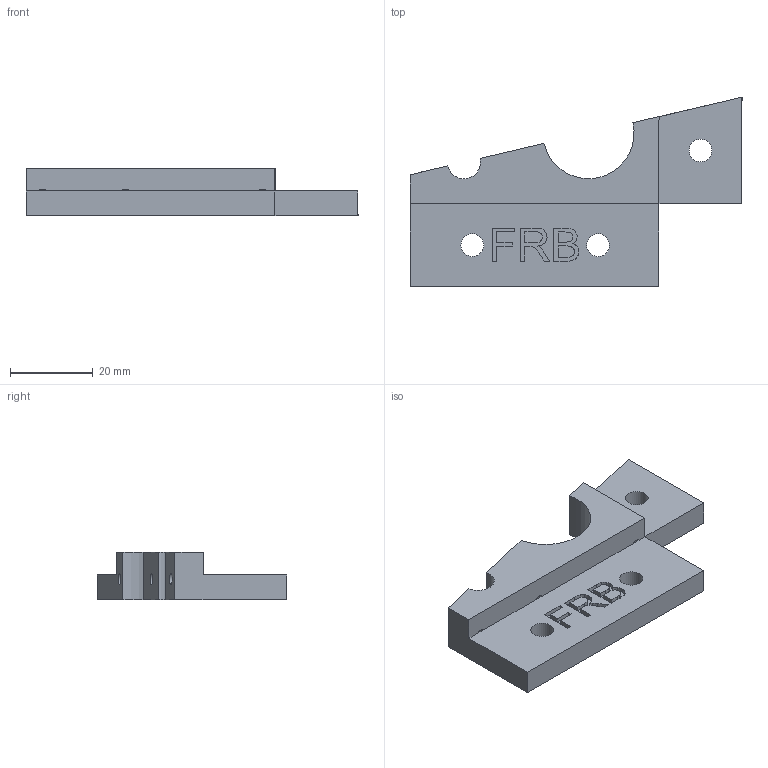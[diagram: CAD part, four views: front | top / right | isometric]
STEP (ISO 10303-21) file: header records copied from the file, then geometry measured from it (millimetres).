
FILE_DESCRIPTION(/* description */ (''),/* implementation_level */ '2;1');
FILE_NAME(/* name */ 'Z Frame Tie Front Right Bottom v1.step',/* time_stamp */ '2023-03-23T06:42:11-06:00',/* author */ (''),/* organization */ (''),/* preprocessor_version */ 'ST-DEVELOPER v19.2',/* originating_system */ 'Autodesk Translation Framework v11.17.0.187',/* authorisation */ '');
FILE_SCHEMA (('AUTOMOTIVE_DESIGN { 1 0 10303 214 3 1 1 }'));
Length unit declared in the file: millimetre
Products named in the file (2): Z Frame Tie Front Right Bottom; FR Bottom 1
Assembly tree (1 placements, depth 2):
  Z Frame Tie Front Right Bottom
    FR Bottom 1
Bounding box: 80 x 45.63 x 11.5 mm (x, y, z)
Volume: 16413.8 mm3; surface area: 7661.3 mm2
Topology: 1 solids, 1 shells, 101 faces, 279 edges, 183 vertices
Faces by surface type: plane 53, bspline 40, cylinder 8
Full cylindrical faces by diameter (mm): 2.8 x3, 5.5 x3
Entity records: 3647 total; most frequent: CARTESIAN_POINT 1246, ORIENTED_EDGE 558, DIRECTION 349, EDGE_CURVE 279, VERTEX_POINT 183, LINE 177, VECTOR 177, EDGE_LOOP 116
